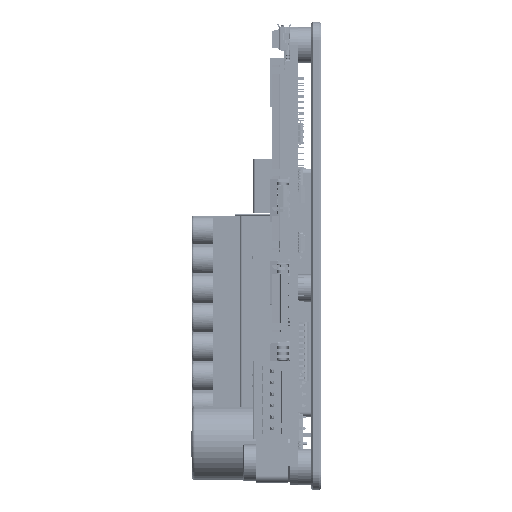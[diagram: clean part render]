
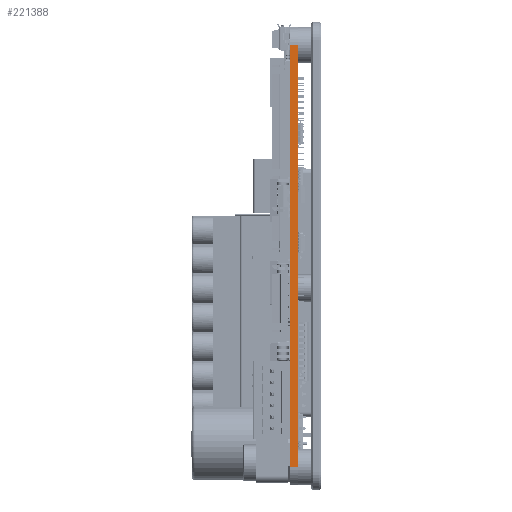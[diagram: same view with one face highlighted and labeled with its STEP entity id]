
A CAD part, left-side view. The second image highlights one B-rep face of the part: STEP entity #221388.
In plain terms, the highlighted planar face has unit normal (-1, 0, 0).
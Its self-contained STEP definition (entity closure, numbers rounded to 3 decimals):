
#308 = CARTESIAN_POINT ( 'NONE',  ( -0.012, 96., -1.61 ) ) ;
#4068 = ORIENTED_EDGE ( 'NONE', *, *, #643706, .F. ) ;
#7427 = CARTESIAN_POINT ( 'NONE',  ( 0., 4., -1.61 ) ) ;
#60539 = VECTOR ( 'NONE', #157617, 1000. ) ;
#68227 = DIRECTION ( 'NONE',  ( 0., 0., 1. ) ) ;
#86779 = DIRECTION ( 'NONE',  ( 0., 0., 1. ) ) ;
#100823 = DIRECTION ( 'NONE',  ( 0., -1., 0. ) ) ;
#157617 = DIRECTION ( 'NONE',  ( 0., -1., 0. ) ) ;
#162139 = EDGE_CURVE ( 'NONE', #168986, #673500, #711575, .T. ) ;
#168986 = VERTEX_POINT ( 'NONE', #7427 ) ;
#187496 = EDGE_CURVE ( 'NONE', #568916, #168986, #592797, .T. ) ;
#203864 = FACE_OUTER_BOUND ( 'NONE', #366480, .T. ) ;
#221388 = ADVANCED_FACE ( 'NONE', ( #203864 ), #773947, .F. ) ;
#231304 = DIRECTION ( 'NONE',  ( 0., -1., 0. ) ) ;
#235290 = EDGE_CURVE ( 'NONE', #568916, #348641, #678641, .T. ) ;
#238979 = DIRECTION ( 'NONE',  ( 1., 0., 0. ) ) ;
#266677 = CARTESIAN_POINT ( 'NONE',  ( 0., 4., -1.61 ) ) ;
#268469 = AXIS2_PLACEMENT_3D ( 'NONE', #766224, #238979, #231304 ) ;
#278087 = CARTESIAN_POINT ( 'NONE',  ( -0.012, 96., 0. ) ) ;
#286357 = VECTOR ( 'NONE', #68227, 1000. ) ;
#348641 = VERTEX_POINT ( 'NONE', #615341 ) ;
#366480 = EDGE_LOOP ( 'NONE', ( #469038, #455942, #4068, #572419 ) ) ;
#428170 = CARTESIAN_POINT ( 'NONE',  ( -0.012, 96., -1.61 ) ) ;
#429860 = LINE ( 'NONE', #278087, #551076 ) ;
#455942 = ORIENTED_EDGE ( 'NONE', *, *, #162139, .T. ) ;
#469038 = ORIENTED_EDGE ( 'NONE', *, *, #187496, .T. ) ;
#551076 = VECTOR ( 'NONE', #100823, 1000. ) ;
#568916 = VERTEX_POINT ( 'NONE', #308 ) ;
#572419 = ORIENTED_EDGE ( 'NONE', *, *, #235290, .F. ) ;
#580421 = VECTOR ( 'NONE', #86779, 1000. ) ;
#580845 = CARTESIAN_POINT ( 'NONE',  ( 0., 4., 0. ) ) ;
#592797 = LINE ( 'NONE', #692537, #60539 ) ;
#615341 = CARTESIAN_POINT ( 'NONE',  ( -0.012, 96., 0. ) ) ;
#643706 = EDGE_CURVE ( 'NONE', #348641, #673500, #429860, .T. ) ;
#673500 = VERTEX_POINT ( 'NONE', #580845 ) ;
#678641 = LINE ( 'NONE', #428170, #286357 ) ;
#692537 = CARTESIAN_POINT ( 'NONE',  ( -0.012, 96., -1.61 ) ) ;
#711575 = LINE ( 'NONE', #266677, #580421 ) ;
#766224 = CARTESIAN_POINT ( 'NONE',  ( -0.012, 96., -1.61 ) ) ;
#773947 = PLANE ( 'NONE',  #268469 ) ;
